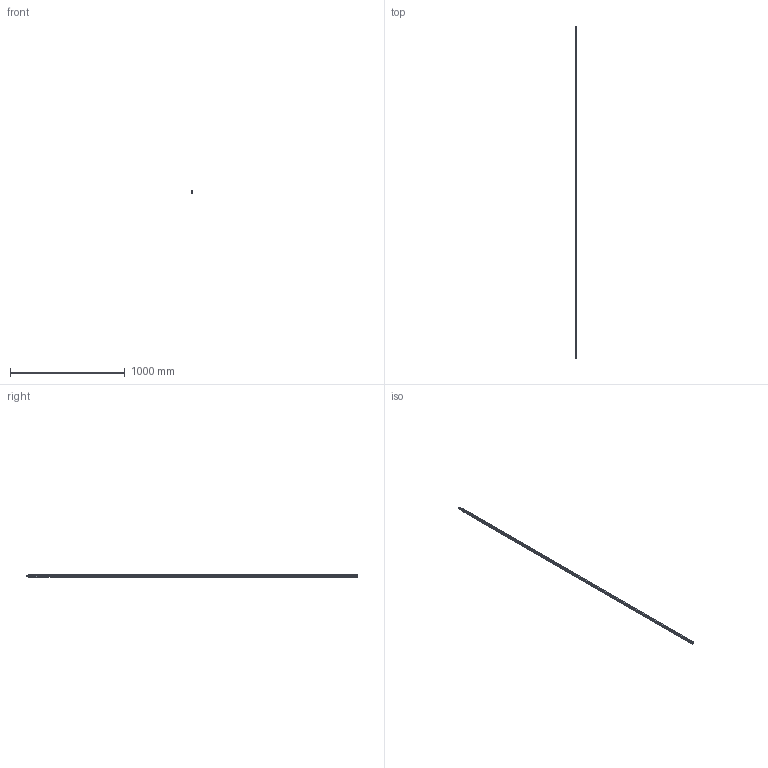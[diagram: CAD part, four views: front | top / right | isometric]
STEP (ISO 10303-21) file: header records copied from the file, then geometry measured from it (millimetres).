
FILE_DESCRIPTION (( 'STEP AP214' ), '1' );
FILE_NAME ('TPL-W-APC-523-L 15Oct2024.STEP', '2024-12-08T23:19:03', ( '' ), ( '' ), 'SwSTEP 2.0', 'SolidWorks 2023', '' );
FILE_SCHEMA (( 'AUTOMOTIVE_DESIGN' ));
Length unit declared in the file: millimetre
Products named in the file (19): Copy of TPL-036 Lock cylinder double key C4 3-5 PIN 55 (23-32)mm^TPL-W-APC-010 11Oct2024_Right; Copy of Escutcheon plate keyed internal 280mm - simplified^Copy of TPGen2 handle keyed internal - simplified_TPL-W-APC-010 11Oct2024; Copy of COV-115-A Cover A suit TPLGen2 standard range AU with hinge holes^TPL-W-APC-010 11Oct2024_1335mm; TPL-W-APC-523-L 15Oct2024; Copy of Adapter CnE - simplfied^TPL-W-APC-010 11Oct2024_26mm backset; Copy of Escutcheon plate keyed external 280mm - simplified^Copy of TPGen2 handle keyed external - simplified_TPL-W-APC-010 11Oct2024; Copy of Copy of LKC-531 Lock twinpoint transmission rod wood system^TPL-W-APC-010 11Oct2024_Standard Range 2891.7mm; Copy of LKC-544 Bolt 8mm square stainless steel TPLGen2^TPL-W-APC-010 11Oct2024; Copy of LKC-547 Spindle - simplified^Copy of TPGen2 handle keyed internal - simplified_TPL-W-APC-010 11Oct2024_A - 11mm; Copy of TPLGen2 lock body keyed^Copy of TPLGen2 lock body keyed assembly_TPL-W-APC-010 11Oct2024; Copy of Handle sub-assembly - simplified^Copy of TPGen2 handle keyed internal - simplified_TPL-W-APC-010 11Oct2024; Copy of Handle sub-assembly - simplified^Copy of TPGen2 handle keyed external - simplified_TPL-W-APC-010 11Oct2024; Copy of Adapter DnF - simplfied^TPL-W-APC-010 11Oct2024_26mm backset; Copy of COV-115-B Cover B suit TPLGen2 standard range AU with hinge holes^TPL-W-APC-010 11Oct2024_2870mm; Copy of TPLGen2 push rod - simplified^Copy of TPLGen2 lock body keyed assembly_TPL-W-APC-010 11Oct2024_Female thread M10; Copy of LKC-531 Lock twinpoint transmission rod wood system^TPL-W-APC-010 11Oct2024_Standard Range (588.7mm); Copy of COV-115-C Cover C suit TPLGen2 standard range AU^TPL-W-APC-010 11Oct2024; Copy of LKC-547 Spindle - simplified^Copy of TPGen2 handle keyed external - simplified_TPL-W-APC-010 11Oct2024_E - 19mm
Assembly tree (3 placements, depth 2):
  Copy of TPL-036 Lock cylinder double key C4 3-5 PIN 55 (23-32)mm^TPL-W-APC-010 11Oct2024_Right
  Copy of Escutcheon plate keyed internal 280mm - simplified^Copy of TPGen2 handle keyed internal - simplified_TPL-W-APC-010 11Oct2024
  Copy of COV-115-A Cover A suit TPLGen2 standard range AU with hinge holes^TPL-W-APC-010 11Oct2024_1335mm
  TPL-W-APC-523-L 15Oct2024
    Copy of COV-115-B Cover B suit TPLGen2 standard range AU with hinge holes^TPL-W-APC-010 11Oct2024_2870mm
    Copy of Copy of LKC-531 Lock twinpoint transmission rod wood system^TPL-W-APC-010 11Oct2024_Standard Range 2891.7mm
    Copy of LKC-544 Bolt 8mm square stainless steel TPLGen2^TPL-W-APC-010 11Oct2024
  Copy of Adapter CnE - simplfied^TPL-W-APC-010 11Oct2024_26mm backset
Bounding box: 10.8 x 2895 x 21 mm (x, y, z)
Volume: 381510.8 mm3; surface area: 313222.7 mm2
Topology: 3 solids, 3 shells, 178 faces, 541 edges, 359 vertices
Faces by surface type: plane 82, cylinder 72, cone 22, sphere 2
Entity records: 6797 total; most frequent: CARTESIAN_POINT 1610, ORIENTED_EDGE 1082, DIRECTION 995, EDGE_CURVE 541, VERTEX_POINT 359, AXIS2_PLACEMENT_3D 352, VECTOR 291, LINE 291
